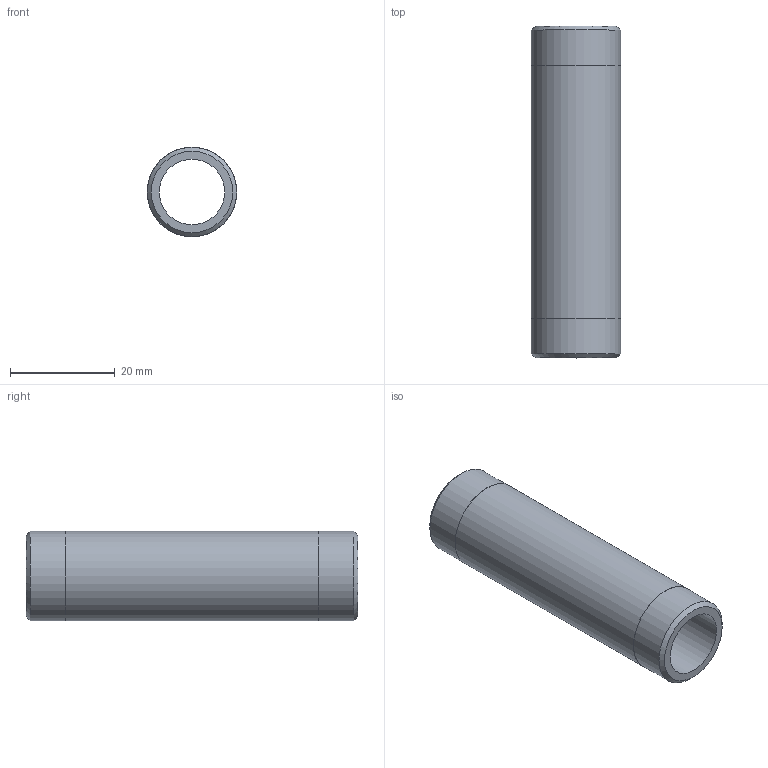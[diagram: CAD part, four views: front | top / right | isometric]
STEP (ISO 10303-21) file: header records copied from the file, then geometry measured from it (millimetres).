
FILE_DESCRIPTION(/* description */ (''),/* implementation_level */ '2;1');
FILE_NAME(/* name */ 'C:/Users/drich/Desktop/BPN38-2-1_2 v1.step',/* time_stamp */ '2020-01-03T15:21:16-06:00',/* author */ (''),/* organization */ (''),/* preprocessor_version */ 'ST-DEVELOPER v18',/* originating_system */ 'Autodesk Translation Framework v8.12.0.6',/* authorisation */ '');
FILE_SCHEMA (('AUTOMOTIVE_DESIGN { 1 0 10303 214 3 1 1 }'));
Length unit declared in the file: inch
Products named in the file (1): BPN38-2-1_2
Bounding box: 17.14 x 63.5 x 17.14 mm (x, y, z)
Volume: 6788.8 mm3; surface area: 6081.9 mm2
Topology: 1 solids, 1 shells, 10 faces, 24 edges, 18 vertices
Faces by surface type: cylinder 4, plane 4, cone 2
Full cylindrical faces by diameter (mm): 12.522 x1, 17.094 x2, 17.145 x1
Entity records: 360 total; most frequent: DIRECTION 64, CARTESIAN_POINT 53, ORIENTED_EDGE 48, AXIS2_PLACEMENT_3D 29, EDGE_CURVE 24, CIRCLE 18, VERTEX_POINT 18, EDGE_LOOP 14
